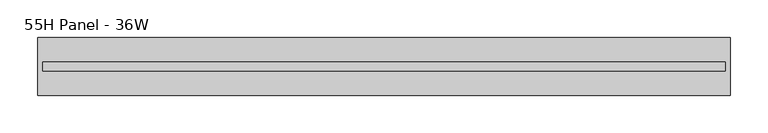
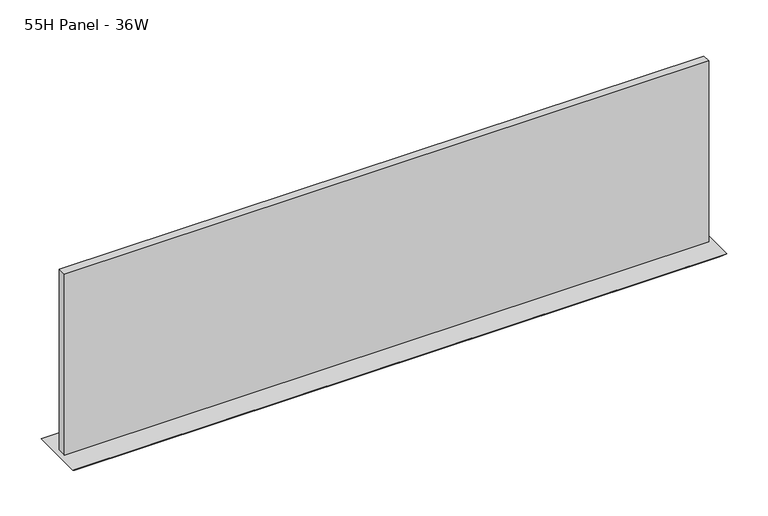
"""IFC4 building model written with IfcOpenShell, lengths in millimetres: furniture geometry, Steelcase - Montage - Tiles - 10H - Frameless Glass Stacker : 55H Panel - 36W."""

from ifc_helpers import new_model, si_unit, frame, origin, place, context, project, spatial, polyline, outline, extrude, faceted_brep, source, transform, mapped, element, save


def furniture_55h_panel_36w_4b51428f(model_context):
    return source(origin(), model_context, "Body", "SolidModel", [
        faceted_brep([(914.4, -38.1000015, 1398.5875), (0.0, -38.1000015, 1398.5875), (6.35, -31.7500015, 1392.2375), (908.05, -31.7500015, 1392.2375), (6.35, 31.7500015, 1392.2375), (908.05, 31.7500015, 1392.2375), (0.0, 38.1000015, 1398.5875), (914.4, 38.1000015, 1398.5875)], [[[0, 1, 2, 3]], [[3, 2, 4, 5]], [[6, 7, 5, 4]], [[1, 0, 7, 6]], [[2, 1, 6, 4]], [[0, 3, 5, 7]]]),
        extrude(outline(polyline([(907.6181828, -5.9944001), (6.7818001, -5.9944001), (6.7818001, 5.9944008), (907.6181828, 5.9944008), (907.6181828, -5.9944001)])), frame((0.0, 0.0, 1398.5875), z_axis=(0.0, 0.0, 1.0), x_axis=(1.0, 0.0, 0.0)), (0.0, 0.0, 1.0), 267.7160475),
    ])


if __name__ == "__main__":
    model = new_model("IFC4")
    model_context = context("Model", 3, world=origin())
    ifc_project = project(units=[si_unit("LENGTHUNIT", "METRE", prefix="MILLI")], contexts=[model_context])
    site = spatial("IfcSite", under=ifc_project)
    building = spatial("IfcBuilding", under=site)
    placement = place(None, origin())
    furniture_55h_panel_36w_shape = furniture_55h_panel_36w_4b51428f(model_context)
    element("IfcFurniture", 1, ObjectType="Steelcase - Montage - Tiles - 10H - Frameless Glass Stacker : 55H Panel - 36W", at=placement, inside=building, context=model_context, shape_type="MappedRepresentation", body=[
        mapped(furniture_55h_panel_36w_shape, transform((0.0, 0.0, 0.0), x_axis=(1.0, 0.0, 0.0), y_axis=(0.0, 1.0, 0.0), z_axis=(0.0, 0.0, 1.0))),
    ])
    save(model, "model.ifc")
